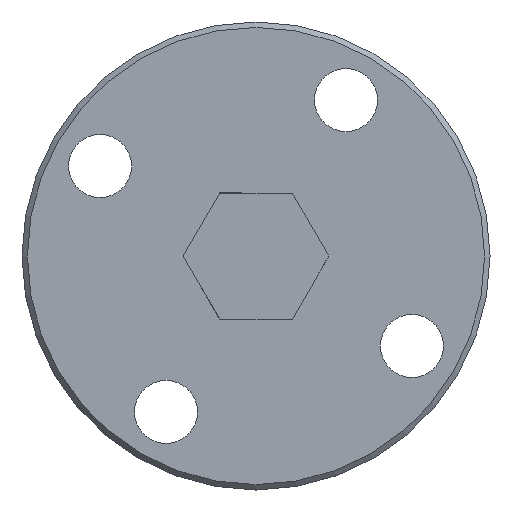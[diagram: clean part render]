
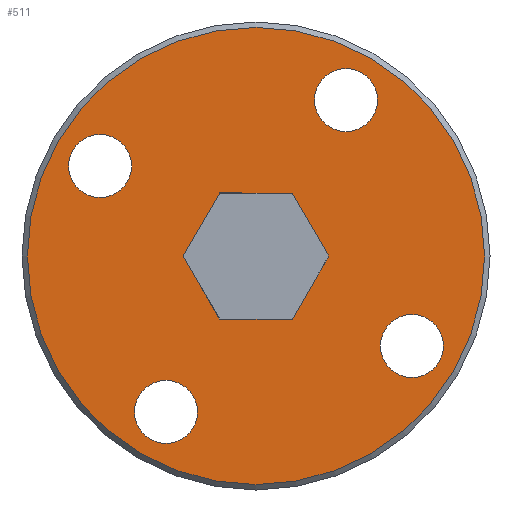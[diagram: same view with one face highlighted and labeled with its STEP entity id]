
A CAD part, left-side view. The second image highlights one B-rep face of the part: STEP entity #511.
In plain terms, the highlighted planar face has unit normal (-1, 0, 0).
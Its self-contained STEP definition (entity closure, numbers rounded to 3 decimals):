
#377=CARTESIAN_POINT('',(140.0,12.7,0.));
#378=VERTEX_POINT('',#377);
#379=CARTESIAN_POINT('',(140.0,0.0,0.0));
#380=DIRECTION('',(1.0,0.0,0.0));
#381=DIRECTION('',(0.0,-1.0,0.0));
#382=AXIS2_PLACEMENT_3D('',#379,#380,#381);
#383=CIRCLE('',#382,12.7);
#384=EDGE_CURVE('',#378,#378,#383,.T.);
#409=CARTESIAN_POINT('',(140.0,0.0,3.5));
#410=DIRECTION('',(-1.0,0.0,0.0));
#411=DIRECTION('',(0.0,0.0,1.0));
#412=AXIS2_PLACEMENT_3D('',#409,#410,#411);
#413=PLANE('',#412);
#414=ORIENTED_EDGE('',*,*,#384,.F.);
#415=EDGE_LOOP('',(#414));
#416=FACE_OUTER_BOUND('',#415,.T.);
#417=CARTESIAN_POINT('',(140.0,-2.021,-3.5));
#418=VERTEX_POINT('',#417);
#419=CARTESIAN_POINT('',(140.0,2.021,-3.5));
#420=VERTEX_POINT('',#419);
#421=CARTESIAN_POINT('',(140.0,-2.021,-3.5));
#422=DIRECTION('',(0.0,1.0,0.0));
#423=VECTOR('',#422,4.041);
#424=LINE('',#421,#423);
#425=EDGE_CURVE('',#418,#420,#424,.T.);
#426=ORIENTED_EDGE('',*,*,#425,.T.);
#427=CARTESIAN_POINT('',(140.0,4.041,0.));
#428=VERTEX_POINT('',#427);
#429=CARTESIAN_POINT('',(140.0,2.021,-3.5));
#430=DIRECTION('',(0.0,0.5,0.866));
#431=VECTOR('',#430,4.041);
#432=LINE('',#429,#431);
#433=EDGE_CURVE('',#420,#428,#432,.T.);
#434=ORIENTED_EDGE('',*,*,#433,.T.);
#435=CARTESIAN_POINT('',(140.0,2.021,3.5));
#436=VERTEX_POINT('',#435);
#437=CARTESIAN_POINT('',(140.0,4.041,0.));
#438=DIRECTION('',(0.0,-0.5,0.866));
#439=VECTOR('',#438,4.041);
#440=LINE('',#437,#439);
#441=EDGE_CURVE('',#428,#436,#440,.T.);
#442=ORIENTED_EDGE('',*,*,#441,.T.);
#443=CARTESIAN_POINT('',(140.0,-2.021,3.5));
#444=VERTEX_POINT('',#443);
#445=CARTESIAN_POINT('',(140.0,2.021,3.5));
#446=DIRECTION('',(0.0,-1.0,0.0));
#447=VECTOR('',#446,4.041);
#448=LINE('',#445,#447);
#449=EDGE_CURVE('',#436,#444,#448,.T.);
#450=ORIENTED_EDGE('',*,*,#449,.T.);
#451=CARTESIAN_POINT('',(140.0,-4.041,0.0));
#452=VERTEX_POINT('',#451);
#453=CARTESIAN_POINT('',(140.0,-2.021,3.5));
#454=DIRECTION('',(0.0,-0.5,-0.866));
#455=VECTOR('',#454,4.041);
#456=LINE('',#453,#455);
#457=EDGE_CURVE('',#444,#452,#456,.T.);
#458=ORIENTED_EDGE('',*,*,#457,.T.);
#459=CARTESIAN_POINT('',(140.0,-4.041,0.0));
#460=DIRECTION('',(0.0,0.5,-0.866));
#461=VECTOR('',#460,4.041);
#462=LINE('',#459,#461);
#463=EDGE_CURVE('',#452,#418,#462,.T.);
#464=ORIENTED_EDGE('',*,*,#463,.T.);
#465=EDGE_LOOP('',(#426,#434,#442,#450,#458,#464));
#466=FACE_BOUND('',#465,.T.);
#467=CARTESIAN_POINT('',(140.0,-3.25,8.66));
#468=VERTEX_POINT('',#467);
#469=CARTESIAN_POINT('',(140.0,-5.,8.66));
#470=DIRECTION('',(1.0,0.0,0.0));
#471=DIRECTION('',(0.0,1.0,0.0));
#472=AXIS2_PLACEMENT_3D('',#469,#470,#471);
#473=CIRCLE('',#472,1.75);
#474=EDGE_CURVE('',#468,#468,#473,.T.);
#475=ORIENTED_EDGE('',*,*,#474,.T.);
#476=EDGE_LOOP('',(#475));
#477=FACE_BOUND('',#476,.T.);
#478=CARTESIAN_POINT('',(140.0,-8.66,-3.25));
#479=VERTEX_POINT('',#478);
#480=CARTESIAN_POINT('',(140.0,-8.66,-5.));
#481=DIRECTION('',(1.0,0.0,0.0));
#482=DIRECTION('',(0.0,0.0,1.0));
#483=AXIS2_PLACEMENT_3D('',#480,#481,#482);
#484=CIRCLE('',#483,1.75);
#485=EDGE_CURVE('',#479,#479,#484,.T.);
#486=ORIENTED_EDGE('',*,*,#485,.T.);
#487=EDGE_LOOP('',(#486));
#488=FACE_BOUND('',#487,.T.);
#489=CARTESIAN_POINT('',(140.0,3.25,-8.66));
#490=VERTEX_POINT('',#489);
#491=CARTESIAN_POINT('',(140.0,5.,-8.66));
#492=DIRECTION('',(1.0,0.0,0.0));
#493=DIRECTION('',(0.0,-1.0,0.0));
#494=AXIS2_PLACEMENT_3D('',#491,#492,#493);
#495=CIRCLE('',#494,1.75);
#496=EDGE_CURVE('',#490,#490,#495,.T.);
#497=ORIENTED_EDGE('',*,*,#496,.T.);
#498=EDGE_LOOP('',(#497));
#499=FACE_BOUND('',#498,.T.);
#500=CARTESIAN_POINT('',(140.0,8.66,3.25));
#501=VERTEX_POINT('',#500);
#502=CARTESIAN_POINT('',(140.0,8.66,5.));
#503=DIRECTION('',(1.0,0.0,0.0));
#504=DIRECTION('',(0.0,0.0,-1.0));
#505=AXIS2_PLACEMENT_3D('',#502,#503,#504);
#506=CIRCLE('',#505,1.75);
#507=EDGE_CURVE('',#501,#501,#506,.T.);
#508=ORIENTED_EDGE('',*,*,#507,.T.);
#509=EDGE_LOOP('',(#508));
#510=FACE_BOUND('',#509,.T.);
#511=ADVANCED_FACE('',(#416,#466,#477,#488,#499,#510),#413,.T.);
